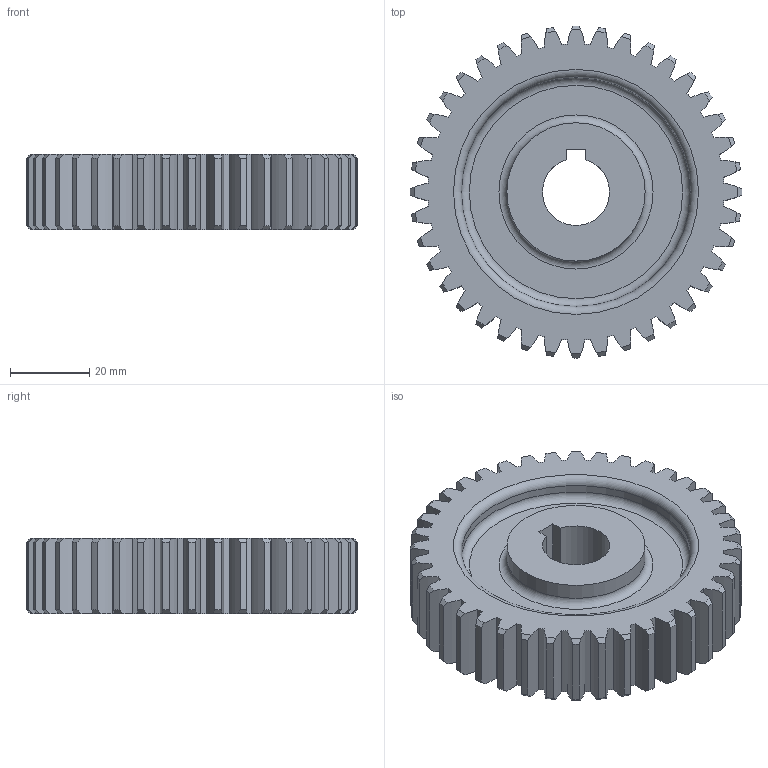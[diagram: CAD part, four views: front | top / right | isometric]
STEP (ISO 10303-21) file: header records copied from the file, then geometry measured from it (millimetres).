
FILE_DESCRIPTION(/* description */ (''),/* implementation_level */ '2;1');
FILE_NAME(/* name */ 'C:\Users\cad-11\Desktop\기계캐드마스터\601105E1005-스퍼기어.stp',/* time_stamp */ '2020-11-21T10:51:45+09:00',/* author */ ('cad-11'),/* organization */ (''),/* preprocessor_version */ 'ST-DEVELOPER v15.6',/* originating_system */ 'Autodesk Inventor 2015',/* authorisation */ '');
FILE_SCHEMA (('AUTOMOTIVE_DESIGN { 1 0 10303 214 3 1 1 }'));
Length unit declared in the file: millimetre
Products named in the file (3): 스퍼 기어11; 스퍼 기어1; 스퍼기어-1
Bounding box: 84 x 84 x 19 mm (x, y, z)
Volume: 70315 mm3; surface area: 22796.9 mm2
Topology: 1 solids, 1 shells, 260 faces, 756 edges, 502 vertices
Faces by surface type: cylinder 165, cone 80, plane 9, torus 6
Full cylindrical faces by diameter (mm): 35 x2, 58 x2
Entity records: 8986 total; most frequent: CARTESIAN_POINT 1993, DIRECTION 1532, ORIENTED_EDGE 1492, EDGE_CURVE 746, AXIS2_PLACEMENT_3D 681, VERTEX_POINT 502, CIRCLE 416, EDGE_LOOP 276
